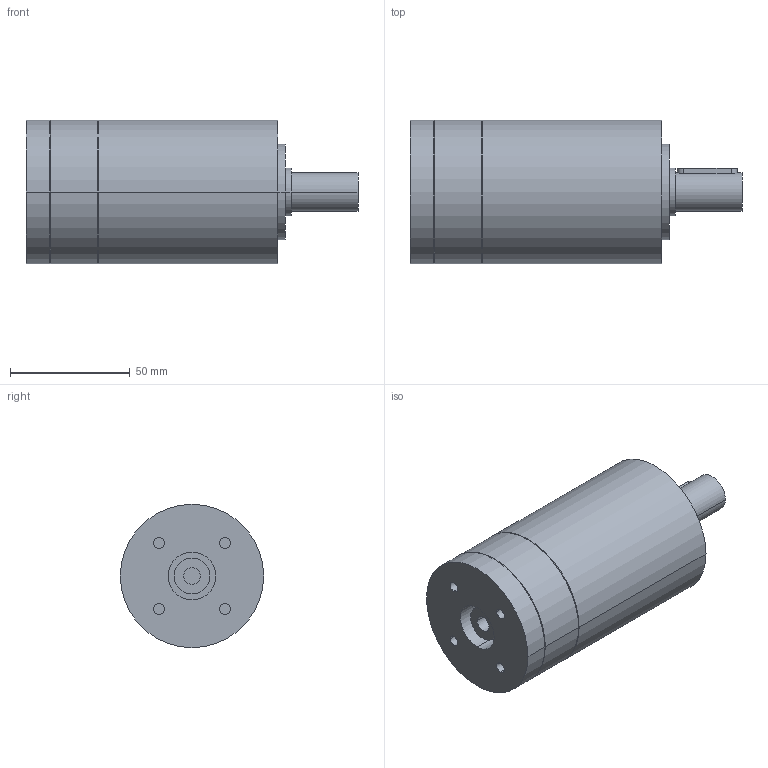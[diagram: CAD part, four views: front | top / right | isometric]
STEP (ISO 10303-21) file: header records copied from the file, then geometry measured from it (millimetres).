
FILE_DESCRIPTION(('CoCreate Modeling STEP Export'),'2;1');
FILE_NAME('GPR75_ig-9-12-16-20-24-30-36_16_B14_7_P14.stp','2014-08-25T16:05:22',(''),(''),'CoCreate Modeling STEP processor for AP214 (Solid Model)','CoCreate Modeling 16.00C 25-Feb-2009 (C) Parametric Technology GmbH','');
FILE_SCHEMA(('AUTOMOTIVE_DESIGN { 1 0 10303 214 1 1 1 1 }'));
Length unit declared in the file: millimetre
Products named in the file (2): GPR75_ig-9-12-16-20-24-30-36_16_B14_7_P14
Assembly tree (1 placements, depth 2):
  GPR75_ig-9-12-16-20-24-30-36_16_B14_7_P14
    GPR75_ig-9-12-16-20-24-30-36_16_B14_7_P14
Bounding box: 138.9 x 60 x 60 mm (x, y, z)
Volume: 303464.7 mm3; surface area: 30954.6 mm2
Topology: 1 solids, 1 shells, 77 faces, 195 edges, 139 vertices
Faces by surface type: cylinder 46, plane 25, cone 6
Entity records: 1961 total; most frequent: ORIENTED_EDGE 386, CARTESIAN_POINT 359, DIRECTION 254, EDGE_CURVE 193, VERTEX_POINT 139, AXIS2_PLACEMENT_3D 98, EDGE_LOOP 98, FACE_OUTER_BOUND 77
